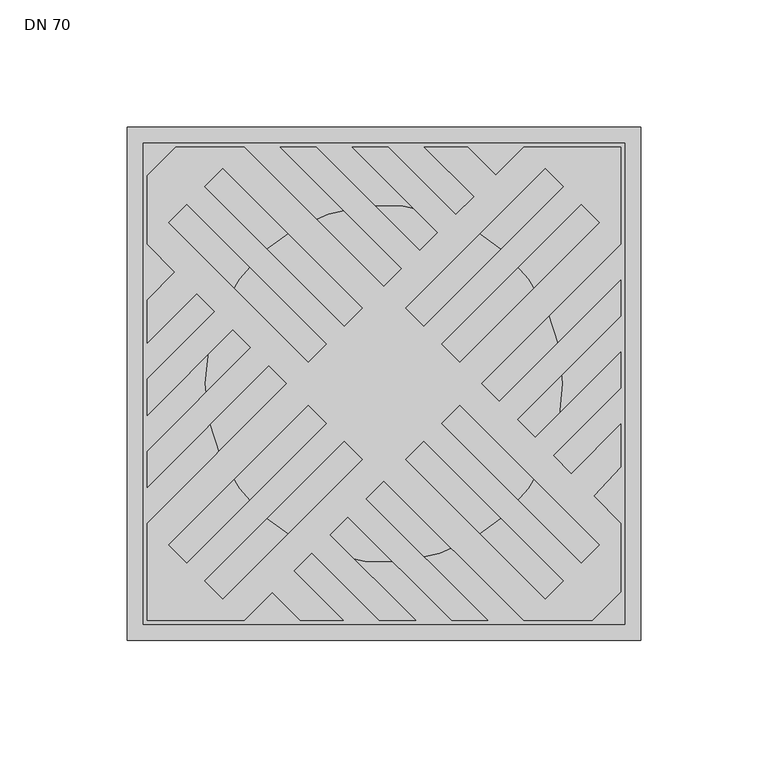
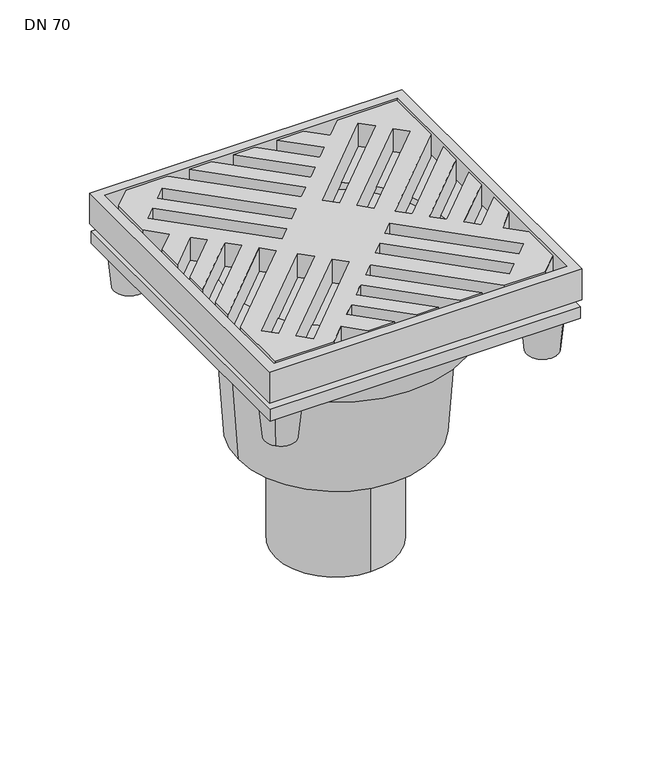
"""IFC4 building model written with IfcOpenShell, lengths in millimetres: sanitary terminal geometry, PF_GEN_UN_parkdeck gully Passavant_ACO : DN 70."""

import ifcopenshell
import ifcopenshell.guid

model = None  # the IFC model being written
_history = None  # IfcOwnerHistory: only IFC2X3 demands one
_inside = {}  # id of a spatial element -> (the spatial element, [elements in it])
_under = {}  # id of a project, library or spatial element -> (it, [spatial elements below it])
_declared = {}  # id of a project -> (the project, [libraries it declares])
_typed = {}  # id of a type object -> (the type object, [elements of that type])
_made_of = {}  # id of a material, layer set ... -> (it, [elements and type objects made of it])


def new_model(schema):
    """Start an empty IFC model of exactly this schema.

    Asked for "IFC4X3", IfcOpenShell would pick the latest addendum, in which some entities
    have other attributes; the version numbers below select the first issue.
    IFC2X3 requires an IfcOwnerHistory on every rooted entity: one is made here for all.
    """
    global model, _history
    if schema == "IFC4X3":
        model = ifcopenshell.file(schema_version=(4, 3, 0, 0))
    else:
        model = ifcopenshell.file(schema=schema)
    _inside.clear()
    _under.clear()
    _declared.clear()
    _typed.clear()
    _made_of.clear()
    _history = None
    if model.schema == "IFC2X3":
        org = make("IfcOrganization", Name="unknown")
        user = make(
            "IfcPersonAndOrganization",
            ThePerson=make("IfcPerson", FamilyName="unknown"),
            TheOrganization=org,
        )
        app = make(
            "IfcApplication",
            ApplicationDeveloper=org,
            Version="unknown",
            ApplicationFullName="unknown",
            ApplicationIdentifier="unknown",
        )
        _history = make(
            "IfcOwnerHistory",
            OwningUser=user,
            OwningApplication=app,
            ChangeAction="ADDED",
            CreationDate=0,
        )
    return model


def make(cls, **values):
    """One entity of the class cls with the attributes given. An attribute that is None is left unset."""
    return model.create_entity(
        cls, **{name: value for name, value in values.items() if value is not None}
    )


def rooted(cls, **values):
    """An entity with a GlobalId (a new one), such as an element, a storey or a relation."""
    return make(cls, GlobalId=ifcopenshell.guid.new(), OwnerHistory=_history, **values)


def si_unit(unit_type, name, prefix=None):
    """IfcSIUnit, for example si_unit("LENGTHUNIT", "METRE", prefix="MILLI")."""
    return make("IfcSIUnit", UnitType=unit_type, Prefix=prefix, Name=name)


def assignment(units):
    """IfcUnitAssignment: the units of a project."""
    return None if units is None else make("IfcUnitAssignment", Units=units)


def point(xyz):
    """IfcCartesianPoint."""
    return None if xyz is None else make("IfcCartesianPoint", Coordinates=xyz)


def direction(xyz):
    """IfcDirection."""
    return None if xyz is None else make("IfcDirection", DirectionRatios=xyz)


def frame(location, z_axis=None, x_axis=None):
    """IfcAxis2Placement3D, a coordinate frame: its origin and axes. An axis left out is left unset."""
    return make(
        "IfcAxis2Placement3D",
        Location=point(location),
        Axis=direction(z_axis),
        RefDirection=direction(x_axis),
    )


def origin():
    """The frame at (0, 0, 0) with its axes left unset."""
    return frame((0.0, 0.0, 0.0))


def place(relative_to, where):
    """IfcLocalPlacement: puts the frame where relative to a parent placement (None: the world)."""
    return make(
        "IfcLocalPlacement", PlacementRelTo=relative_to, RelativePlacement=where
    )


def context(
    kind, dimensions, precision=None, world=None, true_north=None, identifier=None
):
    """IfcGeometricRepresentationContext, for example the 3D "Model" context."""
    return make(
        "IfcGeometricRepresentationContext",
        ContextIdentifier=identifier,
        ContextType=kind,
        CoordinateSpaceDimension=dimensions,
        Precision=precision,
        WorldCoordinateSystem=world,
        TrueNorth=true_north,
    )


def project(units=None, contexts=None):
    """IfcProject with its units and contexts."""
    return rooted(
        "IfcProject",
        Name="project",
        RepresentationContexts=contexts,
        UnitsInContext=assignment(units),
    )


def spatial(cls, under=None, at=None, **own):
    """A site, building, storey or space (cls), placed at a placement, below another one or the project."""
    s = rooted(cls, ObjectPlacement=at, **own)
    if under is not None:
        _under.setdefault(under.id(), (under, []))[1].append(s)
    return s


def polyline(points):
    """IfcPolyline through the points."""
    return make("IfcPolyline", Points=[point(p) for p in points])


def circle_curve(where, radius):
    """IfcCircle in the frame where."""
    return make("IfcCircle", Position=where, Radius=radius)


def outline(outer, holes=None, kind="AREA"):
    """IfcArbitraryClosedProfileDef: a profile drawn as a closed curve; with holes, ...WithVoids."""
    if holes is None:
        return make("IfcArbitraryClosedProfileDef", ProfileType=kind, OuterCurve=outer)
    return make(
        "IfcArbitraryProfileDefWithVoids",
        ProfileType=kind,
        OuterCurve=outer,
        InnerCurves=holes,
    )


def extrude(swept, where, along, depth):
    """IfcExtrudedAreaSolid: the profile swept, set in the frame where, extruded along a direction by depth."""
    return make(
        "IfcExtrudedAreaSolid",
        SweptArea=swept,
        Position=where,
        ExtrudedDirection=direction(along),
        Depth=depth,
    )


def faces_of(points, faces, orient=None, outer=None):
    """IfcFace entities. A face is a list of loops; a loop is a list of indices into points, from 0.

    orient and outer hold one flag for each loop. By default every Orientation is true, the
    first loop of a face is its IfcFaceOuterBound and the others are IfcFaceBound.
    """
    made = []
    for i, loops in enumerate(faces):
        bounds = []
        for j, loop in enumerate(loops):
            is_outer = j == 0 if outer is None else outer[i][j]
            bounds.append(
                make(
                    "IfcFaceOuterBound" if is_outer else "IfcFaceBound",
                    Bound=make("IfcPolyLoop", Polygon=[points[k] for k in loop]),
                    Orientation=True if orient is None else orient[i][j],
                )
            )
        made.append(make("IfcFace", Bounds=bounds))
    return made


def faceted_brep(points, faces, orient=None, outer=None, voids=None):
    """IfcFacetedBrep: a solid bounded by flat faces; with voids (closed shells), ...WithVoids."""
    shared = [point(p) for p in points]
    hull = make("IfcClosedShell", CfsFaces=faces_of(shared, faces, orient, outer))
    if voids is None:
        return make("IfcFacetedBrep", Outer=hull)
    return make(
        "IfcFacetedBrepWithVoids",
        Outer=hull,
        Voids=[
            make(cls, CfsFaces=faces_of(shared, fs, o, b)) for cls, fs, o, b in voids
        ],
    )


def shape(context_of_items, identifier, shape_type, items):
    """IfcShapeRepresentation: the items that make up one representation, for example the "Body"."""
    return make(
        "IfcShapeRepresentation",
        ContextOfItems=context_of_items,
        RepresentationIdentifier=identifier,
        RepresentationType=shape_type,
        Items=items,
    )


def source(mapping_origin, context_of_items, identifier, shape_type, items):
    """IfcRepresentationMap: a shape defined once, which mapped items show again and again."""
    return make(
        "IfcRepresentationMap",
        MappingOrigin=mapping_origin,
        MappedRepresentation=shape(context_of_items, identifier, shape_type, items),
    )


def transform(
    local_origin,
    x_axis=None,
    y_axis=None,
    z_axis=None,
    scale=None,
    scale2=None,
    scale3=None,
    uniform=True,
):
    """IfcCartesianTransformationOperator3D, or its non-uniform kind. x_axis, y_axis, z_axis: its Axis1, 2, 3."""
    if uniform:
        return make(
            "IfcCartesianTransformationOperator3D",
            Axis1=direction(x_axis),
            Axis2=direction(y_axis),
            LocalOrigin=point(local_origin),
            Scale=scale,
            Axis3=direction(z_axis),
        )
    return make(
        "IfcCartesianTransformationOperator3DnonUniform",
        Axis1=direction(x_axis),
        Axis2=direction(y_axis),
        LocalOrigin=point(local_origin),
        Scale=scale,
        Axis3=direction(z_axis),
        Scale2=scale2,
        Scale3=scale3,
    )


def mapped(mapping_source, mapping_target):
    """IfcMappedItem: shows the shape of a source again, moved by a transform."""
    return make(
        "IfcMappedItem", MappingSource=mapping_source, MappingTarget=mapping_target
    )


def made_of(thing, what):
    """Note that an element or type object is made of a material, layer set ...; save() writes the relation."""
    if what is not None:
        _made_of.setdefault(what.id(), (what, []))[1].append(thing)
    return thing


def element(
    cls,
    number,
    at=None,
    inside=None,
    cuts=None,
    type_object=None,
    material=None,
    context=None,
    identifier="Body",
    shape_type=None,
    held_by="IfcProductDefinitionShape",
    body=None,
    shapes=None,
    **own,
):
    """One element of the class cls, such as IfcWall. Its Tag is "e" and its number.

    at: its placement. inside: the storey or other place that contains it. cuts: it is an
    opening in that element (IfcRelVoidsElement). A single representation is given by context,
    identifier, shape_type and body (its items); several are given by shapes. held_by: the class
    of the entity that holds the representations. save() writes the other relations.
    """
    e = rooted(cls, Tag="e%d" % number, ObjectPlacement=at, **own)
    if body is not None:
        shapes = [shape(context, identifier, shape_type, body)]
    if shapes is not None:
        e.Representation = make(held_by, Representations=shapes)
    if inside is not None:
        _inside.setdefault(inside.id(), (inside, []))[1].append(e)
    if cuts is not None:
        rooted(
            "IfcRelVoidsElement", RelatingBuildingElement=cuts, RelatedOpeningElement=e
        )
    if type_object is not None:
        _typed.setdefault(type_object.id(), (type_object, []))[1].append(e)
    return made_of(e, material)


def aggregate(whole, parts):
    """IfcRelAggregates: a whole, such as a stair, and the parts it consists of."""
    return rooted("IfcRelAggregates", RelatingObject=whole, RelatedObjects=parts)


def save(model, path):
    """Write the relations noted so far, then the file.

    IfcRelAggregates (storeys below a building ...), IfcRelContainedInSpatialStructure (elements
    in a storey), IfcRelDefinesByType, IfcRelAssociatesMaterial and IfcRelDeclares: one each for
    every whole, place, type object, material and project.
    """
    for whole, parts in _under.values():
        aggregate(whole, parts)
    for where, things in _inside.values():
        rooted(
            "IfcRelContainedInSpatialStructure",
            RelatedElements=things,
            RelatingStructure=where,
        )
    for kind, things in _typed.values():
        rooted("IfcRelDefinesByType", RelatedObjects=things, RelatingType=kind)
    for what, things in _made_of.values():
        rooted("IfcRelAssociatesMaterial", RelatedObjects=things, RelatingMaterial=what)
    for by, libraries in _declared.values():
        rooted("IfcRelDeclares", RelatingContext=by, RelatedDefinitions=libraries)
    model.write(path)


def plane_surface(at):
    """IfcPlane: the flat surface through the origin of the frame at, square to its z axis."""
    return make("IfcPlane", Position=at)


def cylinder_surface(at, radius):
    """IfcCylindricalSurface: all points at the distance radius from the z axis of the frame at."""
    return make("IfcCylindricalSurface", Position=at, Radius=radius)


def revolved_surface(curve, axis_point, axis_direction):
    """IfcSurfaceOfRevolution: the curve turned about the line through axis_point along axis_direction."""
    return make(
        "IfcSurfaceOfRevolution",
        SweptCurve=make("IfcArbitraryOpenProfileDef", ProfileType="CURVE", Curve=curve),
        AxisPosition=make("IfcAxis1Placement", Location=point(axis_point), Axis=direction(axis_direction)),
    )


def advanced_brep(points, edges, surfaces, faces):
    """IfcAdvancedBrep: a solid bounded by faces that lie on surfaces and meet in shared edges.

    An edge is (start, end): straight between two places in points (the first is 0);
    or (start, end, curve); or (start, end, curve, False) where it runs against its curve.
    A face is (place in surfaces, loops), or (place, loops, False) where it looks against
    its surface's normal. A loop lists edges by number (the first is 1), with a minus sign
    where the edge is run from its end to its start. The first loop is the outer one.
    """
    corners = [point(p) for p in points]
    vertices = [make("IfcVertexPoint", VertexGeometry=c) for c in corners]
    made = []
    for start, end, *more in edges:
        made.append(
            make(
                "IfcEdgeCurve",
                EdgeStart=vertices[start],
                EdgeEnd=vertices[end],
                EdgeGeometry=more[0] if more else make("IfcPolyline", Points=[corners[start], corners[end]]),
                SameSense=more[1] if len(more) > 1 else True,
            )
        )
    hull = []
    for where, loops, *sense in faces:
        bounds = []
        for j, loop in enumerate(loops):
            ring = [make("IfcOrientedEdge", EdgeElement=made[abs(k) - 1], Orientation=k > 0) for k in loop]
            bounds.append(
                make(
                    "IfcFaceOuterBound" if j == 0 else "IfcFaceBound",
                    Bound=make("IfcEdgeLoop", EdgeList=ring),
                    Orientation=True,
                )
            )
        hull.append(make("IfcAdvancedFace", Bounds=bounds, FaceSurface=surfaces[where], SameSense=sense[0] if sense else True))
    return make("IfcAdvancedBrep", Outer=make("IfcClosedShell", CfsFaces=hull))


def dn_70_6141f48a(model_context):
    return source(origin(), model_context, "Body", "SolidModel", [
        faceted_brep([(84.95, 84.95, -21.0), (-84.95, 84.95, -21.0), (-84.95, -84.95, -21.0), (84.95, -84.95, -21.0), (78.7, 78.7, -29.0), (78.7, -78.7, -29.0), (-78.7, -78.7, -29.0), (-78.7, 78.7, -29.0)], [[[0, 1, 2, 3]], [[4, 5, 6, 7]], [[4, 7, 1, 0]], [[7, 6, 2, 1]], [[6, 5, 3, 2]], [[5, 4, 0, 3]]]),
        advanced_brep(
        [(-75.1, 0.0, -49.0), (75.1, 0.0, -49.0), (-75.1, 0.0, -29.0), (75.1, 0.0, -29.0)],
        [
            (0, 1, circle_curve(frame((0.0, 0.0, -49.0), z_axis=(0.0, 0.0, -1.0), x_axis=(1.0, 0.0, 0.0)), 75.1)),
            (1, 0, circle_curve(frame((0.0, 0.0, -49.0), z_axis=(0.0, 0.0, -1.0), x_axis=(1.0, 0.0, 0.0)), 75.1)),
            (2, 3, circle_curve(frame((0.0, 0.0, -29.0), z_axis=(0.0, 0.0, 1.0), x_axis=(1.0, 0.0, 0.0)), 75.1)),
            (3, 2, circle_curve(frame((0.0, 0.0, -29.0), z_axis=(0.0, 0.0, 1.0), x_axis=(1.0, 0.0, 0.0)), 75.1)),
            (1, 3),
            (2, 0),
        ],
        [
            plane_surface(frame((75.1, 0.0, -49.0), z_axis=(0.0, 0.0, -1.0), x_axis=(0.0, -1.0, 0.0))),
            plane_surface(frame((75.1, 0.0, -29.0), z_axis=(0.0, 0.0, 1.0), x_axis=(0.0, 1.0, 0.0))),
            cylinder_surface(frame((0.0, 0.0, -49.0), z_axis=(0.0, 0.0, 1.0), x_axis=(1.0, 0.0, 0.0)), 75.1),
        ],
        [
            (0, [[1, 2]]),
            (1, [[3, 4]]),
            (2, [[-2, 5, -3, 6]]),
            (2, [[-1, -6, -4, -5]]),
        ],
    ),
        advanced_brep(
        [(100.75, 100.75, -21.0), (100.75, -100.75, -21.0), (-100.75, -100.75, -21.0), (-100.75, 100.75, -21.0), (-70.1, 0.0, -21.0), (70.1, 0.0, -21.0), (94.5, -94.5, -16.0), (94.5, 94.5, -16.0), (-94.5, 94.5, -16.0), (-94.5, -94.5, -16.0), (-70.1, 0.0, -16.0), (70.1, 0.0, -16.0), (100.75, 100.75, 0.0), (-100.75, 100.75, 0.0), (-100.75, -100.75, 0.0), (100.75, -100.75, 0.0), (94.5, 94.5, 0.0), (94.5, -94.5, 0.0), (-94.5, -94.5, 0.0), (-94.5, 94.5, 0.0)],
        [
            (0, 1),
            (1, 2),
            (2, 3),
            (3, 0),
            (4, 5, circle_curve(frame((0.0, 0.0, -21.0), z_axis=(0.0, 0.0, 1.0), x_axis=(1.0, 0.0, 0.0)), 70.1)),
            (5, 4, circle_curve(frame((0.0, 0.0, -21.0), z_axis=(0.0, 0.0, 1.0), x_axis=(1.0, 0.0, 0.0)), 70.1)),
            (6, 7),
            (7, 8),
            (8, 9),
            (9, 6),
            (10, 11, circle_curve(frame((0.0, 0.0, -16.0), z_axis=(0.0, 0.0, -1.0), x_axis=(1.0, 0.0, 0.0)), 70.1)),
            (11, 10, circle_curve(frame((0.0, 0.0, -16.0), z_axis=(0.0, 0.0, -1.0), x_axis=(1.0, 0.0, 0.0)), 70.1)),
            (5, 11),
            (10, 4),
            (12, 13),
            (13, 14),
            (14, 15),
            (15, 12),
            (16, 17),
            (17, 18),
            (18, 19),
            (19, 16),
            (3, 13),
            (12, 0),
            (2, 14),
            (1, 15),
            (16, 7),
            (6, 17),
            (9, 18),
            (8, 19),
        ],
        [
            plane_surface(frame((-94.5, 94.5, -21.0), z_axis=(0.0, 0.0, -1.0), x_axis=(1.0, 0.0, 0.0))),
            plane_surface(frame((-94.5, 94.5, -16.0), z_axis=(0.0, 0.0, 1.0), x_axis=(-1.0, 0.0, 0.0))),
            revolved_surface(polyline([(70.1, 0.0, -21.0), (70.1, 0.0, -16.0)]), (0.0, 0.0, -29.0), (0.0, 0.0, -1.0)),
            plane_surface(frame((-100.75, 100.75, 0.0), z_axis=(0.0, 0.0, 1.0), x_axis=(-1.0, 0.0, 0.0))),
            plane_surface(frame((100.75, 100.75, 0.0), z_axis=(0.0, 1.0, 0.0), x_axis=(0.0, 0.0, -1.0))),
            plane_surface(frame((-100.75, 100.75, 0.0), z_axis=(-1.0, 0.0, 0.0), x_axis=(0.0, 0.0, -1.0))),
            plane_surface(frame((-100.75, -100.75, 0.0), z_axis=(0.0, -1.0, 0.0), x_axis=(0.0, 0.0, -1.0))),
            plane_surface(frame((100.75, -100.75, 0.0), z_axis=(1.0, 0.0, 0.0), x_axis=(0.0, 0.0, -1.0))),
            plane_surface(frame((94.5, 94.5, 0.0), z_axis=(-1.0, 0.0, 0.0), x_axis=(0.0, 0.0, -1.0))),
            plane_surface(frame((94.5, -94.5, 0.0), z_axis=(0.0, 1.0, 0.0), x_axis=(0.0, 0.0, -1.0))),
            plane_surface(frame((-94.5, -94.5, 0.0), z_axis=(1.0, 0.0, 0.0), x_axis=(0.0, 0.0, -1.0))),
            plane_surface(frame((-94.5, 94.5, 0.0), z_axis=(0.0, -1.0, 0.0), x_axis=(0.0, 0.0, -1.0))),
        ],
        [
            (0, [[1, 2, 3, 4], [5, 6]]),
            (1, [[7, 8, 9, 10], [11, 12]]),
            (2, [[-6, 13, -11, 14]]),
            (2, [[-5, -14, -12, -13]]),
            (3, [[15, 16, 17, 18], [19, 20, 21, 22]]),
            (4, [[-4, 23, -15, 24]]),
            (5, [[-3, 25, -16, -23]]),
            (6, [[-2, 26, -17, -25]]),
            (7, [[-1, -24, -18, -26]]),
            (8, [[-19, 27, -7, 28]]),
            (9, [[-20, -28, -10, 29]]),
            (10, [[-21, -29, -9, 30]]),
            (11, [[-22, -30, -8, -27]]),
        ],
    ),
        extrude(outline(polyline([(-93.0166638, -40.6740982), (-93.0166638, -26.5319626), (-52.3425656, 14.1421356), (-59.4136335, 21.2132034), (-93.0166638, -12.3898269), (-93.0166638, 1.7523087), (-66.4847013, 28.2842712), (-73.5557691, 35.3553391), (-93.0166638, 15.8944443), (-93.0166638, 32.8650071), (-82.0410505, 43.8406204), (-93.0166638, 54.8162338), (-93.0166638, 81.7029553), (-81.7029553, 93.0166638), (-54.8328977, 93.0166638), (0.0, 38.1837662), (7.0710678, 45.254834), (-40.690762, 93.0166638), (-26.5486264, 93.0166638), (14.1421356, 52.3259018), (21.2132034, 59.3969696), (-12.3898269, 93.0), (1.7523087, 93.0), (28.2842712, 66.4680374), (35.3553391, 73.5391052), (15.8944443, 93.0), (32.8650071, 93.0), (43.8406204, 82.0243866), (54.8162338, 93.0), (93.0, 93.0), (93.0, 54.8162338), (38.1837662, 0.0), (45.254834, -7.0710678), (93.0, 40.6740982), (93.0, 26.5319626), (52.3259018, -14.1421356), (59.3969696, -21.2132034), (93.0, 12.3898269), (93.0, -1.7523087), (66.4680374, -28.2842712), (73.5391052, -35.3553391), (93.0, -15.8944443), (93.0, -32.6426597), (82.3093846, -44.1256185), (93.0, -54.8353654), (93.0, -81.7029553), (81.6862915, -93.0166638), (54.8162338, -93.0166638), (0.0, -38.20043), (-7.0710678, -45.2714978), (40.6740982, -93.0166638), (26.5319626, -93.0166638), (-14.1587995, -52.3259018), (-21.2298673, -59.3969696), (12.3898269, -93.0166638), (-1.7523087, -93.0166638), (-28.3009351, -66.4680374), (-35.3720029, -73.5391052), (-15.8944443, -93.0166638), (-32.8816709, -93.0166638), (-43.8572843, -82.0410505), (-54.8328977, -93.0166638), (-93.0166638, -93.0166638), (-93.0166638, -54.8162338), (-38.20043, 0.0), (-45.2714978, 7.0710678), (-93.0166638, -40.6740982)]), holes=[polyline([(22.627417, 15.5563492), (29.6984848, 8.4852814), (84.4992604, 63.2860569), (77.4281925, 70.3571247), (22.627417, 15.5563492)]), polyline([(63.2860569, 84.4992604), (8.4852814, 29.6984848), (15.5563492, 22.627417), (70.3571247, 77.4281925), (63.2860569, 84.4992604)]), polyline([(-22.6440808, -15.5538815), (-29.7151487, -8.4852814), (-84.5159242, -63.3051885), (-77.4448564, -70.3737886), (-22.6440808, -15.5538815)]), polyline([(-63.3027208, -84.5159242), (-8.5019452, -29.7151487), (-15.573013, -22.6440808), (-70.3737886, -77.4448564), (-63.3027208, -84.5159242)]), polyline([(-84.5159242, 63.2860569), (-29.7151487, 8.4852814), (-22.6440808, 15.5563492), (-77.4448564, 70.3571247), (-84.5159242, 63.2860569)]), polyline([(-15.573013, 22.627417), (-8.5019452, 29.6984848), (-63.3027208, 84.4992604), (-70.3737886, 77.4281925), (-15.573013, 22.627417)]), polyline([(84.4992604, -63.3051885), (29.6984848, -8.4852814), (22.627417, -15.5538815), (77.4281925, -70.3737886), (84.4992604, -63.3051885)]), polyline([(15.5563492, -22.6440808), (8.4852814, -29.7151487), (63.2860569, -84.5159242), (70.3571247, -77.4448564), (15.5563492, -22.6440808)])]), frame((0.0, 0.0, -16.0), z_axis=(0.0, 0.0, 1.0), x_axis=(1.0, 0.0, 0.0)), (0.0, 0.0, 1.0), 16.0),
        advanced_brep(
        [(91.5703282, -91.5703282, -59.0), (77.4281925, -77.4281925, -59.0), (93.3380951, -93.3380951, -34.0), (75.6604256, -75.6604256, -34.0)],
        [
            (0, 1, circle_curve(frame((84.4992604, -84.4992604, -59.0), z_axis=(0.0, 0.0, -1.0), x_axis=(0.7071067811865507, -0.7071067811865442, 0.0)), 10.0)),
            (1, 0, circle_curve(frame((84.4992604, -84.4992604, -59.0), z_axis=(0.0, 0.0, -1.0), x_axis=(-0.7071067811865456, 0.7071067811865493, 0.0)), 10.0)),
            (2, 3, circle_curve(frame((84.4992604, -84.4992604, -34.0), z_axis=(0.0, 0.0, 1.0), x_axis=(-0.7071067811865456, 0.7071067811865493, 0.0)), 12.5)),
            (3, 2, circle_curve(frame((84.4992604, -84.4992604, -34.0), z_axis=(0.0, 0.0, 1.0), x_axis=(0.7071067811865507, -0.7071067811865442, 0.0)), 12.5)),
            (3, 1),
            (0, 2),
        ],
        [
            plane_surface(frame((84.4992604, -84.4992604, -59.0), z_axis=(0.0, 0.0, -1.0), x_axis=(-0.7071067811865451, -0.7071067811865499, 0.0))),
            plane_surface(frame((84.4992604, -84.4992604, -34.0), z_axis=(0.0, 0.0, 1.0), x_axis=(-0.7071067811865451, -0.7071067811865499, 0.0))),
            revolved_surface(polyline([(91.57032816, -91.57032816, -59.0), (93.3380951, -93.3380951, -34.0)]), (84.4992604, -84.4992604, -159.0), (0.0, 0.0, 1.0)),
            revolved_surface(polyline([(77.42819256, -77.42819256, -59.0), (75.6604256, -75.6604256, -34.0)]), (84.4992604, -84.4992604, -159.0), (0.0, 0.0, 1.0)),
        ],
        [
            (0, [[1, 2]]),
            (1, [[3, 4]]),
            (2, [[-4, 5, -1, 6]]),
            (3, [[-3, -6, -2, -5]]),
        ],
    ),
        advanced_brep(
        [(-91.5703282, -91.5703282, -59.0), (-77.4281925, -77.4281925, -59.0), (-93.3380951, -93.3380951, -34.0), (-75.6604256, -75.6604256, -34.0)],
        [
            (0, 1, circle_curve(frame((-84.4992604, -84.4992604, -59.0), z_axis=(0.0, 0.0, -1.0), x_axis=(-0.7071067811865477, -0.7071067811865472, 0.0)), 10.0)),
            (1, 0, circle_curve(frame((-84.4992604, -84.4992604, -59.0), z_axis=(0.0, 0.0, -1.0), x_axis=(0.7071067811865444, 0.7071067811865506, 0.0)), 10.0)),
            (2, 3, circle_curve(frame((-84.4992604, -84.4992604, -34.0), z_axis=(0.0, 0.0, 1.0), x_axis=(0.7071067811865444, 0.7071067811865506, 0.0)), 12.5)),
            (3, 2, circle_curve(frame((-84.4992604, -84.4992604, -34.0), z_axis=(0.0, 0.0, 1.0), x_axis=(-0.7071067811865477, -0.7071067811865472, 0.0)), 12.5)),
            (3, 1),
            (0, 2),
        ],
        [
            plane_surface(frame((-84.4992604, -84.4992604, -59.0), z_axis=(0.0, 0.0, -1.0), x_axis=(-0.7071067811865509, 0.7071067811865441, 0.0))),
            plane_surface(frame((-84.4992604, -84.4992604, -34.0), z_axis=(0.0, 0.0, 1.0), x_axis=(-0.7071067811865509, 0.7071067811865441, 0.0))),
            revolved_surface(polyline([(-91.57032816, -91.57032816, -59.0), (-93.3380951, -93.3380951, -34.0)]), (-84.4992604, -84.4992604, -159.0), (0.0, 0.0, 1.0)),
            revolved_surface(polyline([(-77.42819256, -77.42819256, -59.0), (-75.6604256, -75.6604256, -34.0)]), (-84.4992604, -84.4992604, -159.0), (0.0, 0.0, 1.0)),
        ],
        [
            (0, [[1, 2]]),
            (1, [[3, 4]]),
            (2, [[-4, 5, -1, 6]]),
            (3, [[-3, -6, -2, -5]]),
        ],
    ),
        advanced_brep(
        [(-91.5703282, 91.5703282, -59.0), (-77.4281925, 77.4281925, -59.0), (-93.3380951, 93.3380951, -34.0), (-75.6604256, 75.6604256, -34.0)],
        [
            (0, 1, circle_curve(frame((-84.4992604, 84.4992604, -59.0), z_axis=(0.0, 0.0, -1.0), x_axis=(-0.7071067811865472, 0.7071067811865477, 0.0)), 10.0)),
            (1, 0, circle_curve(frame((-84.4992604, 84.4992604, -59.0), z_axis=(0.0, 0.0, -1.0), x_axis=(0.7071067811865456, -0.7071067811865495, 0.0)), 10.0)),
            (2, 3, circle_curve(frame((-84.4992604, 84.4992604, -34.0), z_axis=(0.0, 0.0, 1.0), x_axis=(0.7071067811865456, -0.7071067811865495, 0.0)), 12.5)),
            (3, 2, circle_curve(frame((-84.4992604, 84.4992604, -34.0), z_axis=(0.0, 0.0, 1.0), x_axis=(-0.7071067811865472, 0.7071067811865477, 0.0)), 12.5)),
            (3, 1),
            (0, 2),
        ],
        [
            plane_surface(frame((-84.4992604, 84.4992604, -59.0), z_axis=(0.0, 0.0, -1.0), x_axis=(0.7071067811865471, 0.707106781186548, 0.0))),
            plane_surface(frame((-84.4992604, 84.4992604, -34.0), z_axis=(0.0, 0.0, 1.0), x_axis=(0.7071067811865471, 0.707106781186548, 0.0))),
            revolved_surface(polyline([(-91.57032816, 91.57032816, -59.0), (-93.3380951, 93.3380951, -34.0)]), (-84.4992604, 84.4992604, -159.0), (0.0, 0.0, 1.0)),
            revolved_surface(polyline([(-77.42819256, 77.42819256, -59.0), (-75.6604256, 75.6604256, -34.0)]), (-84.4992604, 84.4992604, -159.0), (0.0, 0.0, 1.0)),
        ],
        [
            (0, [[1, 2]]),
            (1, [[3, 4]]),
            (2, [[-4, 5, -1, 6]]),
            (3, [[-3, -6, -2, -5]]),
        ],
    ),
        advanced_brep(
        [(91.5703282, 91.5703282, -59.0), (77.4281925, 77.4281925, -59.0), (93.3380951, 93.3380951, -34.0), (75.6604256, 75.6604256, -34.0)],
        [
            (0, 1, circle_curve(frame((84.4992604, 84.4992604, -59.0), z_axis=(0.0, 0.0, -1.0), x_axis=(0.7071067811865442, 0.7071067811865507, 0.0)), 10.0)),
            (1, 0, circle_curve(frame((84.4992604, 84.4992604, -59.0), z_axis=(0.0, 0.0, -1.0), x_axis=(-0.7071067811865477, -0.7071067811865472, 0.0)), 10.0)),
            (2, 3, circle_curve(frame((84.4992604, 84.4992604, -34.0), z_axis=(0.0, 0.0, 1.0), x_axis=(-0.7071067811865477, -0.7071067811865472, 0.0)), 12.5)),
            (3, 2, circle_curve(frame((84.4992604, 84.4992604, -34.0), z_axis=(0.0, 0.0, 1.0), x_axis=(0.7071067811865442, 0.7071067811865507, 0.0)), 12.5)),
            (3, 1),
            (0, 2),
        ],
        [
            plane_surface(frame((84.4992604, 84.4992604, -59.0), z_axis=(0.0, 0.0, -1.0), x_axis=(0.7071067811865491, -0.707106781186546, 0.0))),
            plane_surface(frame((84.4992604, 84.4992604, -34.0), z_axis=(0.0, 0.0, 1.0), x_axis=(0.7071067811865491, -0.707106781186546, 0.0))),
            revolved_surface(polyline([(91.57032816, 91.57032816, -59.0), (93.3380951, 93.3380951, -34.0)]), (84.4992604, 84.4992604, -159.0), (0.0, 0.0, 1.0)),
            revolved_surface(polyline([(77.42819256, 77.42819256, -59.0), (75.6604256, 75.6604256, -34.0)]), (84.4992604, 84.4992604, -159.0), (0.0, 0.0, 1.0)),
        ],
        [
            (0, [[1, 2]]),
            (1, [[3, 4]]),
            (2, [[-4, 5, -1, 6]]),
            (3, [[-3, -6, -2, -5]]),
        ],
    ),
        advanced_brep(
        [(100.0, 100.0, -26.0), (-100.0, 100.0, -26.0), (-100.0, -100.0, -26.0), (100.0, -100.0, -26.0), (100.0, 100.0, -34.0), (100.0, -100.0, -34.0), (-100.0, -100.0, -34.0), (-100.0, 100.0, -34.0), (-82.0, 0.0, -34.0), (82.0, 0.0, -34.0), (-82.0, 0.0, -59.63), (82.0, 0.0, -59.63), (67.2, 0.0, -69.98), (-67.2, 0.0, -69.98), (0.0, 39.0, -208.73), (0.0, -39.0, -208.73), (0.0, -39.0, -133.73), (0.0, 39.0, -133.73), (-62.85, 0.0, -133.73), (62.85, 0.0, -133.73)],
        [
            (0, 1),
            (1, 2),
            (2, 3),
            (3, 0),
            (4, 5),
            (5, 6),
            (6, 7),
            (7, 4),
            (8, 9, circle_curve(frame((0.0, 0.0, -34.0), z_axis=(0.0, 0.0, 1.0), x_axis=(1.0, 0.0, 0.0)), 82.0)),
            (9, 8, circle_curve(frame((0.0, 0.0, -34.0), z_axis=(0.0, 0.0, 1.0), x_axis=(1.0, 0.0, 0.0)), 82.0)),
            (8, 10),
            (10, 11, circle_curve(frame((0.0, 0.0, -59.63), z_axis=(0.0, 0.0, 1.0), x_axis=(1.0, 0.0, 0.0)), 82.0)),
            (11, 9),
            (11, 10, circle_curve(frame((0.0, 0.0, -59.63), z_axis=(0.0, 0.0, 1.0), x_axis=(1.0, 0.0, 0.0)), 82.0)),
            (12, 11),
            (10, 13),
            (13, 12, circle_curve(frame((0.0, 0.0, -69.98), z_axis=(0.0, 0.0, 1.0), x_axis=(-1.0, 0.0, 0.0)), 67.2)),
            (12, 13, circle_curve(frame((0.0, 0.0, -69.98), z_axis=(0.0, 0.0, 1.0), x_axis=(1.0, 0.0, 0.0)), 67.2)),
            (14, 15, circle_curve(frame((0.0, 0.0, -208.73), z_axis=(0.0, 0.0, -1.0), x_axis=(0.0, -1.0, 0.0)), 39.0)),
            (15, 14, circle_curve(frame((0.0, 0.0, -208.73), z_axis=(0.0, 0.0, -1.0), x_axis=(0.0, -1.0, 0.0)), 39.0)),
            (15, 16),
            (16, 17, circle_curve(frame((0.0, 0.0, -133.73), z_axis=(0.0, 0.0, -1.0), x_axis=(0.0, -1.0, 0.0)), 39.0)),
            (17, 14),
            (17, 16, circle_curve(frame((0.0, 0.0, -133.73), z_axis=(0.0, 0.0, -1.0), x_axis=(0.0, -1.0, 0.0)), 39.0)),
            (18, 19, circle_curve(frame((0.0, 0.0, -133.73), z_axis=(0.0, 0.0, -1.0), x_axis=(1.0, 0.0, 0.0)), 62.85)),
            (19, 18, circle_curve(frame((0.0, 0.0, -133.73), z_axis=(0.0, 0.0, -1.0), x_axis=(-1.0, 0.0, 0.0)), 62.85)),
            (19, 12),
            (13, 18),
            (0, 4),
            (7, 1),
            (6, 2),
            (5, 3),
        ],
        [
            plane_surface(frame((-100.0, 100.0, -26.0), z_axis=(0.0, 0.0, 1.0), x_axis=(-1.0, 0.0, 0.0))),
            plane_surface(frame((-100.0, 100.0, -34.0), z_axis=(0.0, 0.0, -1.0), x_axis=(1.0, 0.0, 0.0))),
            cylinder_surface(frame((0.0, 0.0, -59.63), z_axis=(0.0, 0.0, 1.0), x_axis=(1.0, 0.0, 0.0)), 82.0),
            revolved_surface(polyline([(67.20000000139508, 0.0, -69.98), (82.0, 0.0, -59.63)]), (0.0, 0.0, -116.9745946), (0.0, 0.0, 1.0)),
            plane_surface(frame((0.0, -39.0, -208.73), z_axis=(0.0, 0.0, -1.0), x_axis=(-1.0, 0.0, 0.0))),
            cylinder_surface(frame((0.0, 0.0, -208.73), z_axis=(0.0, 0.0, 1.0), x_axis=(0.0, -1.0, 0.0)), 39.0),
            plane_surface(frame((0.0, 0.0, -133.73), z_axis=(0.0, 0.0, -1.0), x_axis=(0.0, -1.0, 0.0))),
            revolved_surface(polyline([(62.84999999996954, 0.0, -133.73000000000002), (67.2, 0.0, -69.98000000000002)]), (0.0, 0.0, -1054.8075862), (0.0, 0.0, 1.0)),
            revolved_surface(polyline([(-62.84999999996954, 0.0, -133.73000000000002), (-67.2, 0.0, -69.98000000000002)]), (0.0, 0.0, -1054.8075862), (0.0, 0.0, 1.0)),
            plane_surface(frame((100.0, 100.0, -26.0), z_axis=(0.0, 1.0, 0.0), x_axis=(0.0, 0.0, -1.0))),
            plane_surface(frame((-100.0, 100.0, -26.0), z_axis=(-1.0, 0.0, 0.0), x_axis=(0.0, 0.0, -1.0))),
            plane_surface(frame((-100.0, -100.0, -26.0), z_axis=(0.0, -1.0, 0.0), x_axis=(0.0, 0.0, -1.0))),
            plane_surface(frame((100.0, -100.0, -26.0), z_axis=(1.0, 0.0, 0.0), x_axis=(0.0, 0.0, -1.0))),
        ],
        [
            (0, [[1, 2, 3, 4]]),
            (1, [[5, 6, 7, 8], [9, 10]]),
            (2, [[11, 12, 13, -9]]),
            (2, [[-11, -10, -13, 14]]),
            (3, [[15, -12, 16, 17]]),
            (3, [[-15, 18, -16, -14]]),
            (4, [[19, 20]]),
            (5, [[-20, 21, 22, 23]]),
            (5, [[-19, -23, 24, -21]]),
            (6, [[25, 26], [-22, -24]]),
            (7, [[-26, 27, -17, 28]]),
            (8, [[-25, -28, -18, -27]]),
            (9, [[-1, 29, -8, 30]]),
            (10, [[-2, -30, -7, 31]]),
            (11, [[-3, -31, -6, 32]]),
            (12, [[-4, -32, -5, -29]]),
        ],
    ),
    ])


if __name__ == "__main__":
    model = new_model("IFC4")
    model_context = context("Model", 3, world=origin())
    ifc_project = project(units=[si_unit("LENGTHUNIT", "METRE", prefix="MILLI")], contexts=[model_context])
    site = spatial("IfcSite", under=ifc_project)
    building = spatial("IfcBuilding", under=site)
    placement = place(None, origin())
    dn_70_shape = dn_70_6141f48a(model_context)
    element("IfcSanitaryTerminal", 1, ObjectType="PF_GEN_UN_parkdeck gully Passavant_ACO : DN 70", at=placement, inside=building, context=model_context, shape_type="MappedRepresentation", body=[
        mapped(dn_70_shape, transform((0.0, 0.0, 0.0), x_axis=(1.0, 0.0, 0.0), y_axis=(0.0, 1.0, 0.0), z_axis=(0.0, 0.0, 1.0))),
    ])
    save(model, "model.ifc")
